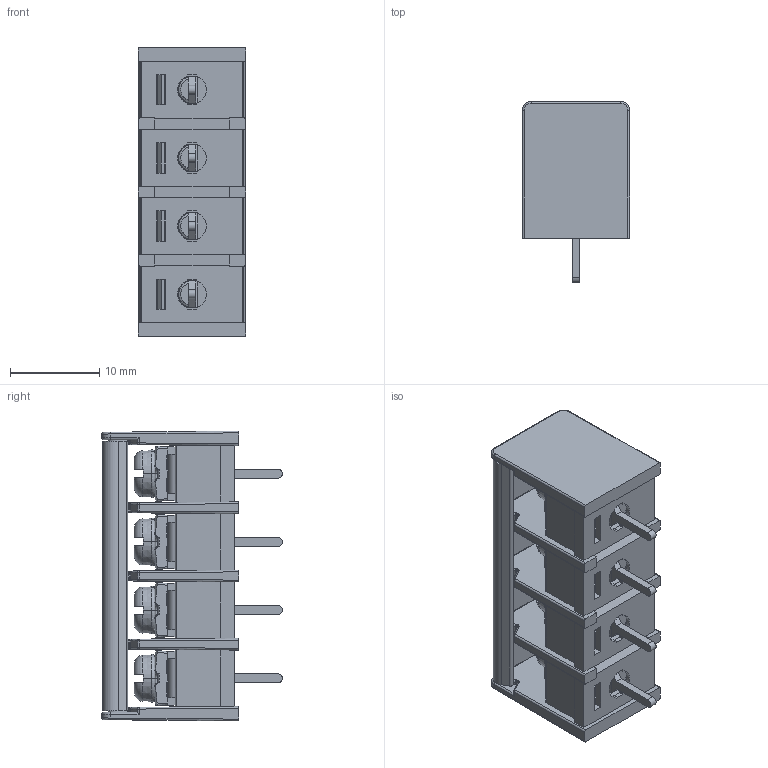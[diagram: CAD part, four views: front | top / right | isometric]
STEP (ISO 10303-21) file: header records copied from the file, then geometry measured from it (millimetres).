
FILE_DESCRIPTION (( 'STEP AP203' ), '1' );
FILE_NAME ('8936-J120153C11CD04SB-1141203.STEP', '2025-12-03T03:07:09', ( '' ), ( '' ), 'SwSTEP 2.0', 'SolidWorks 2020', '' );
FILE_SCHEMA (( 'CONFIG_CONTROL_DESIGN' ));
Products named in the file (2): 8936-J120153C11CD04SB-1141203; 8936-J120153C11CD04SB-1141031
Assembly tree (1 placements, depth 2):
  8936-J120153C11CD04SB-1141203
    8936-J120153C11CD04SB-1141031
Bounding box: 12 x 20.2 x 32.4 mm (x, y, z)
Volume: 2953.3 mm3; surface area: 6386 mm2
Topology: 1 solids, 1 shells, 1685 faces, 5047 edges, 3201 vertices
Faces by surface type: plane 887, cylinder 438, bspline 132, torus 104, sphere 80, cone 44
Entity records: 75708 total; most frequent: CARTESIAN_POINT 32228, ORIENTED_EDGE 10046, DIRECTION 7969, EDGE_CURVE 5023, VERTEX_POINT 3201, LINE 2679, VECTOR 2679, AXIS2_PLACEMENT_3D 2645
